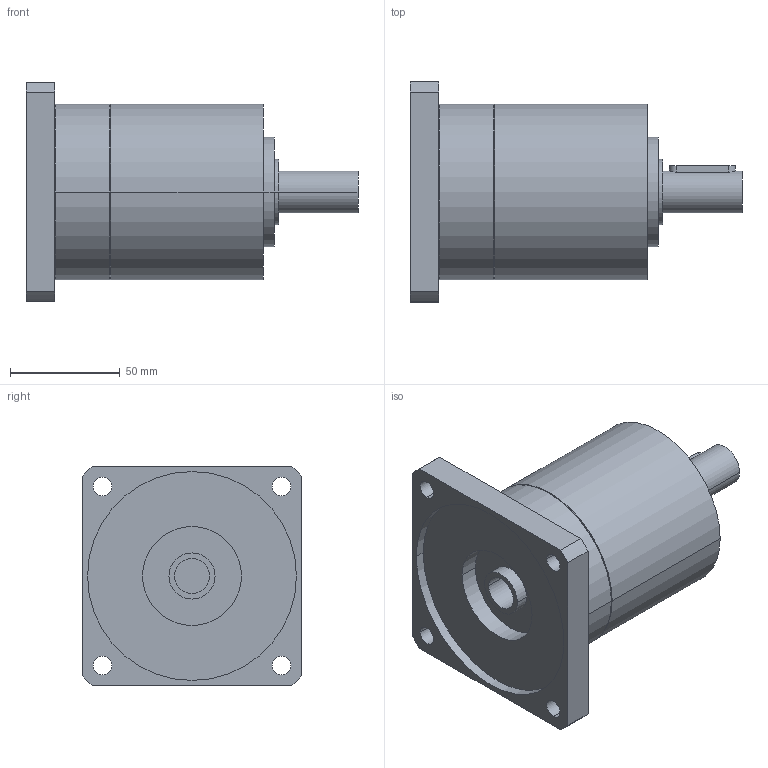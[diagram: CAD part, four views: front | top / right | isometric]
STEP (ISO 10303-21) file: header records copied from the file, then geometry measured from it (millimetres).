
FILE_DESCRIPTION(('CoCreate Modeling STEP Export'),'2;1');
FILE_NAME('GPR100_ig-3-4-5-6_19_B14_15.87_P07.stp','2014-08-26T10:07:36',(''),(''),'CoCreate Modeling STEP processor for AP214 (Solid Model)','CoCreate Modeling 16.00C 25-Feb-2009 (C) Parametric Technology GmbH','');
FILE_SCHEMA(('AUTOMOTIVE_DESIGN { 1 0 10303 214 1 1 1 1 }'));
Length unit declared in the file: millimetre
Products named in the file (2): GPR100_ig-3-4-5-6_19_B14_15.87_P07
Assembly tree (1 placements, depth 2):
  GPR100_ig-3-4-5-6_19_B14_15.87_P07
    GPR100_ig-3-4-5-6_19_B14_15.87_P07
Bounding box: 151 x 100 x 100 mm (x, y, z)
Volume: 573278.8 mm3; surface area: 59609.3 mm2
Topology: 1 solids, 1 shells, 70 faces, 187 edges, 131 vertices
Faces by surface type: cylinder 42, plane 22, cone 6
Entity records: 1934 total; most frequent: ORIENTED_EDGE 370, CARTESIAN_POINT 359, DIRECTION 262, EDGE_CURVE 185, VERTEX_POINT 131, AXIS2_PLACEMENT_3D 98, EDGE_LOOP 92, FACE_OUTER_BOUND 70
